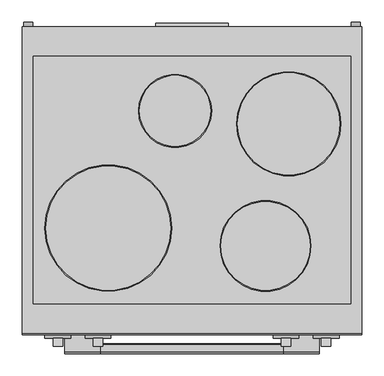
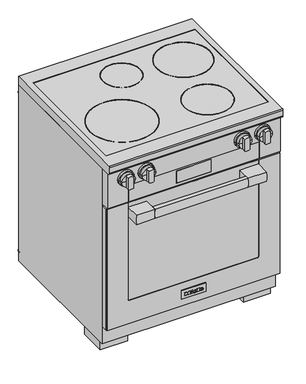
"""IFC4 building model written with IfcOpenShell, lengths in millimetres: proxy geometry, 11791520_USA_HR1622-3_EDST-CLST : 25162281_USA_11791520_HR1622-3_EDST-CLST."""

from ifc_helpers import new_model, si_unit, point, frame, frame_2d, origin, origin_with_axes, place, context, project, spatial, polyline, circle_curve, ellipse_curve, trimmed, segment, composite_curve, outline, extrude, faceted_brep, source, transform, mapped, element, save
from ifc_brep_helpers import plane_surface, cylinder_surface, revolved_surface, extruded_surface, advanced_brep


def specialty_equipment_b242dd7c(model_context):
    return source(origin(), model_context, "Body", "SolidModel", [
        extrude(outline(composite_curve([segment(polyline([(-714.0, 624.0), (-731.0, 624.0)]), True, "CONTINUOUS"), segment(trimmed(circle_curve(frame_2d((-655.4583333, 645.5)), 78.5416667), [point((-731.0, 624.0))], [point((-731.0, 667.0))], False, "CARTESIAN"), True, "CONTINUOUS"), segment(polyline([(-731.0, 667.0), (-714.0, 667.0)]), True, "CONTINUOUS"), segment(trimmed(circle_curve(frame_2d((-789.5416667, 645.5)), 78.5416667), [point((-714.0, 667.0))], [point((-714.0, 624.0))], False, "CARTESIAN"), True, "CONTINUOUS")], self_intersect=False)), frame((-205.0, 0.0, 0.0), z_axis=(1.0, 0.0, 0.0), x_axis=(0.0, 1.0, 0.0)), (0.0, 0.0, 1.0), 410.0),
        extrude(outline(composite_curve([segment(polyline([(-731.0, 667.0), (-668.7, 667.0), (-668.7, 624.0), (-731.0, 624.0)]), True, "CONTINUOUS"), segment(trimmed(circle_curve(frame_2d((-655.4583333, 645.5)), 78.5416667), [point((-731.0, 624.0))], [point((-731.0, 667.0))], False, "CARTESIAN"), True, "CONTINUOUS")], self_intersect=False)), frame((205.0, 0.0, 0.0), z_axis=(1.0, 0.0, 0.0), x_axis=(0.0, 1.0, 0.0)), (0.0, 0.0, 1.0), 81.0),
        extrude(outline(composite_curve([segment(polyline([(-668.7, 667.0), (-668.7, 624.0), (-731.0, 624.0)]), True, "CONTINUOUS"), segment(trimmed(circle_curve(frame_2d((-655.4583333, 645.5)), 78.5416667), [point((-731.0, 624.0))], [point((-731.0, 667.0))], False, "CARTESIAN"), True, "CONTINUOUS"), segment(polyline([(-731.0, 667.0), (-668.7, 667.0)]), True, "CONTINUOUS")], self_intersect=False)), frame((-286.0, 0.0, 0.0), z_axis=(1.0, 0.0, 0.0), x_axis=(0.0, 1.0, 0.0)), (0.0, 0.0, 1.0), 81.0),
        extrude(outline(polyline([(-380.0, -638.0), (380.0, -638.0), (380.0, -664.7), (-380.0, -664.7), (-380.0, -638.0)])), frame((0.0, 0.0, 127.0), z_axis=(0.0, 0.0, 1.0), x_axis=(1.0, 0.0, 0.0)), (0.0, 0.0, 1.0), 561.0),
        extrude(outline(polyline([(-379.0, -664.7), (379.0, -664.7), (379.0, -668.7), (-379.0, -668.7), (-379.0, -664.7)])), frame((0.0, 0.0, 128.0), z_axis=(0.0, 0.0, 1.0), x_axis=(1.0, 0.0, 0.0)), (0.0, 0.0, 1.0), 559.0),
        advanced_brep(
        [(287.0, -664.7, 688.0), (380.0, -664.7, 688.0), (380.0, -664.7, 127.0), (-380.0, -664.7, 127.0), (-380.0, -664.7, 688.0), (-287.0, -664.7, 688.0), (-287.0, -664.7, 687.0), (-379.0, -664.7, 687.0), (-379.0, -664.7, 128.0), (379.0, -664.7, 128.0), (379.0, -664.7, 687.0), (287.0, -664.7, 687.0), (-287.0, -670.0, 688.0), (-380.0, -670.0, 688.0), (-380.0, -670.0, 127.0), (380.0, -670.0, 127.0), (380.0, -670.0, 688.0), (287.0, -670.0, 688.0), (287.0, -670.0, 241.0), (281.0, -670.0, 235.0), (-281.0, -670.0, 235.0), (-287.0, -670.0, 241.0), (-287.0, -668.7, 241.0), (-287.0, -668.7, 687.0), (281.0, -668.7, 235.0), (-281.0, -668.7, 235.0), (287.0, -668.7, 687.0), (287.0, -668.7, 241.0), (379.0, -668.7, 687.0), (379.0, -668.7, 128.0), (-379.0, -668.7, 128.0), (-379.0, -668.7, 687.0)],
        [
            (0, 1),
            (1, 2),
            (2, 3),
            (3, 4),
            (4, 5),
            (5, 6),
            (6, 7),
            (7, 8),
            (8, 9),
            (9, 10),
            (10, 11),
            (11, 0),
            (12, 13),
            (13, 14),
            (14, 15),
            (15, 16),
            (16, 17),
            (17, 18),
            (18, 19, circle_curve(frame((281.0, -670.0, 241.0), z_axis=(0.0, 1.0, 0.0), x_axis=(-1.0, 0.0, 0.0)), 6.0)),
            (19, 20),
            (20, 21, circle_curve(frame((-281.0, -670.0, 241.0), z_axis=(0.0, 1.0, 0.0), x_axis=(-1.0, 0.0, 0.0)), 6.0)),
            (21, 12),
            (21, 22),
            (22, 23),
            (23, 6),
            (5, 12),
            (19, 24),
            (24, 25),
            (25, 20),
            (17, 0),
            (11, 26),
            (26, 27),
            (27, 18),
            (16, 1),
            (15, 2),
            (14, 3),
            (13, 4),
            (25, 22, circle_curve(frame((-281.0, -668.7, 241.0), z_axis=(0.0, 1.0, 0.0), x_axis=(-1.0, 0.0, 0.0)), 6.0)),
            (27, 24, circle_curve(frame((281.0, -668.7, 241.0), z_axis=(0.0, 1.0, 0.0), x_axis=(-1.0, 0.0, 0.0)), 6.0)),
            (28, 29),
            (29, 30),
            (30, 31),
            (31, 23),
            (26, 28),
            (28, 10),
            (9, 29),
            (8, 30),
            (7, 31),
        ],
        [
            plane_surface(frame((-287.0, -664.7, 241.0), z_axis=(0.0, 1.0, 0.0), x_axis=(0.0, 0.0, -1.0))),
            plane_surface(frame((-287.0, -670.0, 241.0), z_axis=(0.0, -1.0, 0.0), x_axis=(0.0, 0.0, 1.0))),
            plane_surface(frame((-287.0, -664.7, 688.0), z_axis=(1.0, 0.0, 0.0), x_axis=(0.0, -1.0, 0.0))),
            plane_surface(frame((-281.0, -664.7, 235.0), z_axis=(0.0, 0.0, 1.0), x_axis=(0.0, -1.0, 0.0))),
            plane_surface(frame((287.0, -664.7, 241.0), z_axis=(-1.0, 0.0, 0.0), x_axis=(0.0, -1.0, 0.0))),
            plane_surface(frame((287.0, -664.7, 688.0), z_axis=(0.0, 0.0, 1.0), x_axis=(0.0, -1.0, 0.0))),
            plane_surface(frame((380.0, -664.7, 688.0), z_axis=(1.0, 0.0, 0.0), x_axis=(0.0, -1.0, 0.0))),
            plane_surface(frame((380.0, -664.7, 127.0), z_axis=(0.0, 0.0, -1.0), x_axis=(0.0, -1.0, 0.0))),
            plane_surface(frame((-380.0, -664.7, 127.0), z_axis=(-1.0, 0.0, 0.0), x_axis=(0.0, -1.0, 0.0))),
            plane_surface(frame((-380.0, -664.7, 688.0), z_axis=(0.0, 0.0, 1.0), x_axis=(0.0, -1.0, 0.0))),
            revolved_surface(polyline([(-287.0, -670.0, 241.0), (-287.0, -668.7, 241.0)]), (-281.0, -670.0, 241.0), (0.0, -1.0, 0.0)),
            revolved_surface(polyline([(275.0, -670.0, 241.0), (275.0, -668.7, 241.0)]), (281.0, -670.0, 241.0), (0.0, -1.0, 0.0)),
            plane_surface(frame((379.0, -668.7, 687.0), z_axis=(0.0, 1.0, 0.0), x_axis=(0.0, 0.0, 1.0))),
            plane_surface(frame((379.0, -664.7, 687.0), z_axis=(-1.0, 0.0, 0.0), x_axis=(0.0, -1.0, 0.0))),
            plane_surface(frame((379.0, -664.7, 128.0), z_axis=(0.0, 0.0, 1.0), x_axis=(0.0, -1.0, 0.0))),
            plane_surface(frame((-379.0, -664.7, 128.0), z_axis=(1.0, 0.0, 0.0), x_axis=(0.0, -1.0, 0.0))),
            plane_surface(frame((-379.0, -664.7, 687.0), z_axis=(0.0, 0.0, -1.0), x_axis=(0.0, -1.0, 0.0))),
        ],
        [
            (0, [[1, 2, 3, 4, 5, 6, 7, 8, 9, 10, 11, 12]]),
            (1, [[13, 14, 15, 16, 17, 18, 19, 20, 21, 22]]),
            (2, [[-22, 23, 24, 25, -6, 26]]),
            (3, [[-20, 27, 28, 29]]),
            (4, [[-18, 30, -12, 31, 32, 33]]),
            (5, [[-1, -30, -17, 34]]),
            (6, [[-2, -34, -16, 35]]),
            (7, [[-3, -35, -15, 36]]),
            (8, [[-4, -36, -14, 37]]),
            (9, [[-5, -37, -13, -26]]),
            (10, [[-21, -29, 38, -23]]),
            (11, [[-19, -33, 39, -27]]),
            (12, [[40, 41, 42, 43, -24, -38, -28, -39, -32, 44]]),
            (13, [[-40, 45, -10, 46]]),
            (14, [[-41, -46, -9, 47]]),
            (15, [[-42, -47, -8, 48]]),
            (16, [[-45, -44, -31, -11]]),
            (16, [[-48, -7, -25, -43]]),
        ],
    ),
        extrude(outline(polyline([(-351.0, -617.0), (351.0, -617.0), (351.0, -638.0), (-351.0, -638.0), (-351.0, -617.0)])), frame((0.0, 0.0, 133.0), z_axis=(0.0, 0.0, 1.0), x_axis=(1.0, 0.0, 0.0)), (0.0, 0.0, 1.0), 550.0),
        extrude(outline(polyline([(356.0, -66.0), (356.0, -622.0), (-356.0, -622.0), (-356.0, -66.0), (356.0, -66.0)])), frame((0.0, 0.0, 896.4), z_axis=(0.0, 0.0, 1.0), x_axis=(1.0, 0.0, 0.0)), (0.0, 0.0, 1.0), 4.0),
        advanced_brep(
        [(381.0, 0.0, 902.0), (381.0, -688.0, 902.0), (381.0, -692.0, 898.0), (381.0, -692.0, 872.0), (381.0, -682.0, 862.0), (381.0, 0.0, 862.0), (-381.0, 0.0, 902.0), (-381.0, 0.0, 862.0), (-381.0, -682.0, 862.0), (-381.0, -692.0, 872.0), (-381.0, -692.0, 898.0), (-381.0, -688.0, 902.0), (-356.0, -66.0, 902.0), (356.0, -66.0, 902.0), (356.0, -622.0, 902.0), (-356.0, -622.0, 902.0), (356.0, -66.0, 896.4), (-356.0, -66.0, 896.4), (-356.0, -622.0, 896.4), (356.0, -622.0, 896.4)],
        [
            (0, 1),
            (1, 2, circle_curve(frame((381.0, -688.0, 898.0), z_axis=(1.0, 0.0, 0.0), x_axis=(0.0, 0.0, 1.0)), 4.0)),
            (2, 3),
            (3, 4, circle_curve(frame((381.0, -682.0, 872.0), z_axis=(1.0, 0.0, 0.0), x_axis=(0.0, 0.0, 1.0)), 10.0)),
            (4, 5),
            (5, 0),
            (6, 7),
            (7, 8),
            (8, 9, circle_curve(frame((-381.0, -682.0, 872.0), z_axis=(-1.0, 0.0, 0.0), x_axis=(0.0, 0.0, 1.0)), 10.0)),
            (9, 10),
            (10, 11, circle_curve(frame((-381.0, -688.0, 898.0), z_axis=(-1.0, 0.0, 0.0), x_axis=(0.0, 0.0, 1.0)), 4.0)),
            (11, 6),
            (0, 6),
            (11, 1),
            (12, 13),
            (13, 14),
            (14, 15),
            (15, 12),
            (10, 2),
            (9, 3),
            (8, 4),
            (7, 5),
            (16, 17),
            (17, 18),
            (18, 19),
            (19, 16),
            (16, 13),
            (12, 17),
            (15, 18),
            (14, 19),
        ],
        [
            plane_surface(frame((381.0, -688.0, 902.0), z_axis=(1.0, 0.0, 0.0), x_axis=(0.0, -1.0, 0.0))),
            plane_surface(frame((-381.0, -688.0, 902.0), z_axis=(-1.0, 0.0, 0.0), x_axis=(0.0, 1.0, 0.0))),
            plane_surface(frame((381.0, 0.0, 902.0), z_axis=(0.0, 0.0, 1.0), x_axis=(-1.0, 0.0, 0.0))),
            cylinder_surface(frame((-381.0, -688.0, 898.0), z_axis=(1.0, 0.0, 0.0), x_axis=(0.0, 0.0, 1.0)), 4.0),
            plane_surface(frame((381.0, -692.0, 898.0), z_axis=(0.0, -1.0, 0.0), x_axis=(-1.0, 0.0, 0.0))),
            cylinder_surface(frame((-381.0, -682.0, 872.0), z_axis=(1.0, 0.0, 0.0), x_axis=(0.0, 0.0, 1.0)), 10.0),
            plane_surface(frame((381.0, -682.0, 862.0), z_axis=(0.0, 0.0, -1.0), x_axis=(-1.0, 0.0, 0.0))),
            plane_surface(frame((381.0, 0.0, 862.0), z_axis=(0.0, 1.0, 0.0), x_axis=(-1.0, 0.0, 0.0))),
            plane_surface(frame((-356.0, -66.0, 896.4), z_axis=(0.0, 0.0, 1.0), x_axis=(1.0, 0.0, 0.0))),
            plane_surface(frame((356.0, -66.0, 902.0), z_axis=(0.0, -1.0, 0.0), x_axis=(0.0, 0.0, -1.0))),
            plane_surface(frame((-356.0, -66.0, 902.0), z_axis=(1.0, 0.0, 0.0), x_axis=(0.0, 0.0, -1.0))),
            plane_surface(frame((-356.0, -622.0, 902.0), z_axis=(0.0, 1.0, 0.0), x_axis=(0.0, 0.0, -1.0))),
            plane_surface(frame((356.0, -622.0, 902.0), z_axis=(-1.0, 0.0, 0.0), x_axis=(0.0, 0.0, -1.0))),
        ],
        [
            (0, [[1, 2, 3, 4, 5, 6]]),
            (1, [[7, 8, 9, 10, 11, 12]]),
            (2, [[-1, 13, -12, 14], [15, 16, 17, 18]]),
            (3, [[-2, -14, -11, 19]]),
            (4, [[-3, -19, -10, 20]]),
            (5, [[-4, -20, -9, 21]]),
            (6, [[-5, -21, -8, 22]]),
            (7, [[-6, -22, -7, -13]]),
            (8, [[23, 24, 25, 26]]),
            (9, [[-23, 27, -15, 28]]),
            (10, [[-24, -28, -18, 29]]),
            (11, [[-25, -29, -17, 30]]),
            (12, [[-26, -30, -16, -27]]),
        ],
    ),
        extrude(outline(composite_curve([segment(trimmed(circle_curve(frame_2d((-38.0, -189.0)), 82.0), [point((44.0, -189.0))], [point((-120.0, -189.0))], False, "CARTESIAN"), True, "CONTINUOUS"), segment(trimmed(circle_curve(frame_2d((-38.0, -189.0)), 82.0), [point((-120.0, -189.0))], [point((44.0, -189.0))], False, "CARTESIAN"), True, "CONTINUOUS")], self_intersect=False), holes=[composite_curve([segment(trimmed(circle_curve(frame_2d((-38.0, -189.0)), 80.0), [point((42.0, -189.0))], [point((-118.0, -189.0))], True, "CARTESIAN"), True, "CONTINUOUS"), segment(trimmed(circle_curve(frame_2d((-38.0, -189.0)), 80.0), [point((-118.0, -189.0))], [point((42.0, -189.0))], True, "CARTESIAN"), True, "CONTINUOUS")], self_intersect=False)]), frame((0.0, 0.0, 900.4), z_axis=(0.0, 0.0, 1.0), x_axis=(1.0, 0.0, 0.0)), (0.0, 0.0, 1.0), 1.0),
        extrude(outline(composite_curve([segment(trimmed(circle_curve(frame_2d((217.0, -218.0)), 117.0), [point((334.0, -218.0))], [point((100.0, -218.0))], False, "CARTESIAN"), True, "CONTINUOUS"), segment(trimmed(circle_curve(frame_2d((217.0, -218.0)), 117.0), [point((100.0, -218.0))], [point((334.0, -218.0))], False, "CARTESIAN"), True, "CONTINUOUS")], self_intersect=False), holes=[composite_curve([segment(trimmed(circle_curve(frame_2d((217.0, -218.0)), 115.0), [point((332.0, -218.0))], [point((102.0, -218.0))], True, "CARTESIAN"), True, "CONTINUOUS"), segment(trimmed(circle_curve(frame_2d((217.0, -218.0)), 115.0), [point((102.0, -218.0))], [point((332.0, -218.0))], True, "CARTESIAN"), True, "CONTINUOUS")], self_intersect=False)]), frame((0.0, 0.0, 900.4), z_axis=(0.0, 0.0, 1.0), x_axis=(1.0, 0.0, 0.0)), (0.0, 0.0, 1.0), 1.0),
        extrude(outline(composite_curve([segment(trimmed(circle_curve(frame_2d((165.0, -492.0)), 102.0), [point((267.0, -492.0))], [point((63.0, -492.0))], False, "CARTESIAN"), True, "CONTINUOUS"), segment(trimmed(circle_curve(frame_2d((165.0, -492.0)), 102.0), [point((63.0, -492.0))], [point((267.0, -492.0))], False, "CARTESIAN"), True, "CONTINUOUS")], self_intersect=False), holes=[composite_curve([segment(trimmed(circle_curve(frame_2d((165.0, -492.0)), 100.0), [point((265.0, -492.0))], [point((65.0, -492.0))], True, "CARTESIAN"), True, "CONTINUOUS"), segment(trimmed(circle_curve(frame_2d((165.0, -492.0)), 100.0), [point((65.0, -492.0))], [point((265.0, -492.0))], True, "CARTESIAN"), True, "CONTINUOUS")], self_intersect=False)]), frame((0.0, 0.0, 900.4), z_axis=(0.0, 0.0, 1.0), x_axis=(1.0, 0.0, 0.0)), (0.0, 0.0, 1.0), 1.0),
        extrude(outline(composite_curve([segment(trimmed(circle_curve(frame_2d((-188.0, -452.0)), 142.0), [point((-46.0, -452.0))], [point((-330.0, -452.0))], False, "CARTESIAN"), True, "CONTINUOUS"), segment(trimmed(circle_curve(frame_2d((-188.0, -452.0)), 142.0), [point((-330.0, -452.0))], [point((-46.0, -452.0))], False, "CARTESIAN"), True, "CONTINUOUS")], self_intersect=False), holes=[composite_curve([segment(trimmed(circle_curve(frame_2d((-188.0, -452.0)), 140.0), [point((-48.0, -452.0))], [point((-328.0, -452.0))], True, "CARTESIAN"), True, "CONTINUOUS"), segment(trimmed(circle_curve(frame_2d((-188.0, -452.0)), 140.0), [point((-328.0, -452.0))], [point((-48.0, -452.0))], True, "CARTESIAN"), True, "CONTINUOUS")], self_intersect=False)]), frame((0.0, 0.0, 900.4), z_axis=(0.0, 0.0, 1.0), x_axis=(1.0, 0.0, 0.0)), (0.0, 0.0, 1.0), 1.0),
        extrude(outline(composite_curve([segment(polyline([(839.8328157, -312.0), (786.1671843, -312.0)]), True, "CONTINUOUS"), segment(trimmed(circle_curve(frame_2d((813.0, -301.0)), 29.0), [point((786.1671843, -312.0))], [point((786.1671843, -290.0))], False, "CARTESIAN"), True, "CONTINUOUS"), segment(polyline([(786.1671843, -290.0), (839.8328157, -290.0)]), True, "CONTINUOUS"), segment(trimmed(circle_curve(frame_2d((813.0, -301.0)), 29.0), [point((839.8328157, -290.0))], [point((839.8328157, -312.0))], False, "CARTESIAN"), True, "CONTINUOUS")], self_intersect=False)), frame((0.0, -717.0, 0.0), z_axis=(0.0, 1.0, 0.0), x_axis=(0.0, 0.0, 1.0)), (0.0, 0.0, 1.0), 18.0),
        extrude(outline(composite_curve([segment(polyline([(839.8328157, -222.0), (786.1671843, -222.0)]), True, "CONTINUOUS"), segment(trimmed(circle_curve(frame_2d((813.0, -211.0)), 29.0), [point((786.1671843, -222.0))], [point((786.1671843, -200.0))], False, "CARTESIAN"), True, "CONTINUOUS"), segment(polyline([(786.1671843, -200.0), (839.8328157, -200.0)]), True, "CONTINUOUS"), segment(trimmed(circle_curve(frame_2d((813.0, -211.0)), 29.0), [point((839.8328157, -200.0))], [point((839.8328157, -222.0))], False, "CARTESIAN"), True, "CONTINUOUS")], self_intersect=False)), frame((0.0, -717.0, 0.0), z_axis=(0.0, 1.0, 0.0), x_axis=(0.0, 0.0, 1.0)), (0.0, 0.0, 1.0), 18.0),
        extrude(outline(composite_curve([segment(trimmed(circle_curve(frame_2d((813.0, 211.0)), 29.0), [point((786.1671843, 200.0))], [point((786.1671843, 222.0))], False, "CARTESIAN"), True, "CONTINUOUS"), segment(polyline([(786.1671843, 222.0), (839.8328157, 222.0)]), True, "CONTINUOUS"), segment(trimmed(circle_curve(frame_2d((813.0, 211.0)), 29.0), [point((839.8328157, 222.0))], [point((839.8328157, 200.0))], False, "CARTESIAN"), True, "CONTINUOUS"), segment(polyline([(839.8328157, 200.0), (786.1671843, 200.0)]), True, "CONTINUOUS")], self_intersect=False)), frame((0.0, -717.0, 0.0), z_axis=(0.0, 1.0, 0.0), x_axis=(0.0, 0.0, 1.0)), (0.0, 0.0, 1.0), 18.0),
        advanced_brep(
        [(-301.0, -683.0, 813.0), (-272.0, -683.0, 813.0), (-330.0, -683.0, 813.0), (-330.0, -699.0, 813.0), (-272.0, -699.0, 813.0), (-301.0, -699.0, 813.0)],
        [
            (0, 1),
            (1, 2, circle_curve(frame((-301.0, -683.0, 813.0), z_axis=(0.0, 1.0, 0.0), x_axis=(1.0, 0.0, 0.0)), 29.0)),
            (2, 0),
            (2, 1, circle_curve(frame((-301.0, -683.0, 813.0), z_axis=(0.0, 1.0, 0.0), x_axis=(1.0, 0.0, 0.0)), 29.0)),
            (3, 4, circle_curve(frame((-301.0, -699.0, 813.0), z_axis=(0.0, -1.0, 0.0), x_axis=(1.0, 0.0, 0.0)), 29.0)),
            (4, 5),
            (5, 3),
            (4, 3, circle_curve(frame((-301.0, -699.0, 813.0), z_axis=(0.0, -1.0, 0.0), x_axis=(1.0, 0.0, 0.0)), 29.0)),
            (1, 4),
            (3, 2),
        ],
        [
            plane_surface(frame((-301.0, -683.0, 813.0), z_axis=(0.0, 1.0, 0.0), x_axis=(1.0, 0.0, 0.0))),
            plane_surface(frame((-301.0, -699.0, 813.0), z_axis=(0.0, -1.0, 0.0), x_axis=(1.0, 0.0, 0.0))),
            cylinder_surface(frame((-301.0, 751.3738435, 813.0), z_axis=(0.0, 1.0, 0.0), x_axis=(1.0, 0.0, 0.0)), 29.0),
        ],
        [
            (0, [[1, 2, 3]]),
            (0, [[-3, 4, -1]]),
            (1, [[5, 6, 7]]),
            (1, [[8, -7, -6]]),
            (2, [[-2, 9, -5, 10]]),
            (2, [[-4, -10, -8, -9]]),
        ],
    ),
        advanced_brep(
        [(-211.0, -683.0, 813.0), (-182.0, -683.0, 813.0), (-240.0, -683.0, 813.0), (-240.0, -699.0, 813.0), (-182.0, -699.0, 813.0), (-211.0, -699.0, 813.0)],
        [
            (0, 1),
            (1, 2, circle_curve(frame((-211.0, -683.0, 813.0), z_axis=(0.0, 1.0, 0.0), x_axis=(1.0, 0.0, 0.0)), 29.0)),
            (2, 0),
            (2, 1, circle_curve(frame((-211.0, -683.0, 813.0), z_axis=(0.0, 1.0, 0.0), x_axis=(1.0, 0.0, 0.0)), 29.0)),
            (3, 4, circle_curve(frame((-211.0, -699.0, 813.0), z_axis=(0.0, -1.0, 0.0), x_axis=(1.0, 0.0, 0.0)), 29.0)),
            (4, 5),
            (5, 3),
            (4, 3, circle_curve(frame((-211.0, -699.0, 813.0), z_axis=(0.0, -1.0, 0.0), x_axis=(1.0, 0.0, 0.0)), 29.0)),
            (1, 4),
            (3, 2),
        ],
        [
            plane_surface(frame((-211.0, -683.0, 813.0), z_axis=(0.0, 1.0, 0.0), x_axis=(1.0, 0.0, 0.0))),
            plane_surface(frame((-211.0, -699.0, 813.0), z_axis=(0.0, -1.0, 0.0), x_axis=(1.0, 0.0, 0.0))),
            cylinder_surface(frame((-211.0, 751.3738435, 813.0), z_axis=(0.0, 1.0, 0.0), x_axis=(1.0, 0.0, 0.0)), 29.0),
        ],
        [
            (0, [[1, 2, 3]]),
            (0, [[-3, 4, -1]]),
            (1, [[5, 6, 7]]),
            (1, [[8, -7, -6]]),
            (2, [[-2, 9, -5, 10]]),
            (2, [[-4, -10, -8, -9]]),
        ],
    ),
        advanced_brep(
        [(211.0, -683.0, 813.0), (240.0, -683.0, 813.0), (182.0, -683.0, 813.0), (182.0, -699.0, 813.0), (240.0, -699.0, 813.0), (211.0, -699.0, 813.0)],
        [
            (0, 1),
            (1, 2, circle_curve(frame((211.0, -683.0, 813.0), z_axis=(0.0, 1.0, 0.0), x_axis=(1.0, 0.0, 0.0)), 29.0)),
            (2, 0),
            (2, 1, circle_curve(frame((211.0, -683.0, 813.0), z_axis=(0.0, 1.0, 0.0), x_axis=(1.0, 0.0, 0.0)), 29.0)),
            (3, 4, circle_curve(frame((211.0, -699.0, 813.0), z_axis=(0.0, -1.0, 0.0), x_axis=(1.0, 0.0, 0.0)), 29.0)),
            (4, 5),
            (5, 3),
            (4, 3, circle_curve(frame((211.0, -699.0, 813.0), z_axis=(0.0, -1.0, 0.0), x_axis=(1.0, 0.0, 0.0)), 29.0)),
            (1, 4),
            (3, 2),
        ],
        [
            plane_surface(frame((211.0, -683.0, 813.0), z_axis=(0.0, 1.0, 0.0), x_axis=(1.0, 0.0, 0.0))),
            plane_surface(frame((211.0, -699.0, 813.0), z_axis=(0.0, -1.0, 0.0), x_axis=(1.0, 0.0, 0.0))),
            cylinder_surface(frame((211.0, 751.3738435, 813.0), z_axis=(0.0, 1.0, 0.0), x_axis=(1.0, 0.0, 0.0)), 29.0),
        ],
        [
            (0, [[1, 2, 3]]),
            (0, [[-3, 4, -1]]),
            (1, [[5, 6, 7]]),
            (1, [[8, -7, -6]]),
            (2, [[-2, 9, -5, 10]]),
            (2, [[-4, -10, -8, -9]]),
        ],
    ),
        extrude(outline(composite_curve([segment(polyline([(786.1671843, 312.0), (839.8328157, 312.0)]), True, "CONTINUOUS"), segment(trimmed(circle_curve(frame_2d((813.0, 301.0)), 29.0), [point((839.8328157, 312.0))], [point((839.8328157, 290.0))], False, "CARTESIAN"), True, "CONTINUOUS"), segment(polyline([(839.8328157, 290.0), (786.1671843, 290.0)]), True, "CONTINUOUS"), segment(trimmed(circle_curve(frame_2d((813.0, 301.0)), 29.0), [point((786.1671843, 290.0))], [point((786.1671843, 312.0))], False, "CARTESIAN"), True, "CONTINUOUS")], self_intersect=False)), frame((0.0, -717.0, 0.0), z_axis=(0.0, 1.0, 0.0), x_axis=(0.0, 0.0, 1.0)), (0.0, 0.0, 1.0), 18.0),
        advanced_brep(
        [(301.0, -683.0, 813.0), (330.0, -683.0, 813.0), (272.0, -683.0, 813.0), (272.0, -699.0, 813.0), (330.0, -699.0, 813.0), (301.0, -699.0, 813.0)],
        [
            (0, 1),
            (1, 2, circle_curve(frame((301.0, -683.0, 813.0), z_axis=(0.0, 1.0, 0.0), x_axis=(1.0, 0.0, 0.0)), 29.0)),
            (2, 0),
            (2, 1, circle_curve(frame((301.0, -683.0, 813.0), z_axis=(0.0, 1.0, 0.0), x_axis=(1.0, 0.0, 0.0)), 29.0)),
            (3, 4, circle_curve(frame((301.0, -699.0, 813.0), z_axis=(0.0, -1.0, 0.0), x_axis=(1.0, 0.0, 0.0)), 29.0)),
            (4, 5),
            (5, 3),
            (4, 3, circle_curve(frame((301.0, -699.0, 813.0), z_axis=(0.0, -1.0, 0.0), x_axis=(1.0, 0.0, 0.0)), 29.0)),
            (1, 4),
            (3, 2),
        ],
        [
            plane_surface(frame((301.0, -683.0, 813.0), z_axis=(0.0, 1.0, 0.0), x_axis=(1.0, 0.0, 0.0))),
            plane_surface(frame((301.0, -699.0, 813.0), z_axis=(0.0, -1.0, 0.0), x_axis=(1.0, 0.0, 0.0))),
            cylinder_surface(frame((301.0, 751.3738435, 813.0), z_axis=(0.0, 1.0, 0.0), x_axis=(1.0, 0.0, 0.0)), 29.0),
        ],
        [
            (0, [[1, 2, 3]]),
            (0, [[-3, 4, -1]]),
            (1, [[5, 6, 7]]),
            (1, [[8, -7, -6]]),
            (2, [[-2, 9, -5, 10]]),
            (2, [[-4, -10, -8, -9]]),
        ],
    ),
        extrude(outline(polyline([(76.5, -671.7), (-76.5, -671.7), (-76.5, -670.7), (76.5, -670.7), (76.5, -671.7)])), frame((0.0, 0.0, 707.0), z_axis=(0.0, 0.0, 1.0), x_axis=(1.0, 0.0, 0.0)), (0.0, 0.0, 1.0), 56.0),
        extrude(outline(polyline([(772.0, 287.0), (772.0, -287.0), (695.0, -287.0), (695.0, 287.0), (772.0, 287.0)]), holes=[polyline([(763.0, 76.5), (707.0, 76.5), (707.0, -76.5), (763.0, -76.5), (763.0, 76.5)])]), frame((0.0, -671.7, 0.0), z_axis=(0.0, 1.0, 0.0), x_axis=(0.0, 0.0, 1.0)), (0.0, 0.0, 1.0), 5.0),
        faceted_brep([(380.0, -673.0, 862.0), (-380.0, -673.0, 862.0), (-380.0, -673.0, 695.0), (-287.0, -673.0, 695.0), (-287.0, -673.0, 772.0), (287.0, -673.0, 772.0), (287.0, -673.0, 695.0), (380.0, -673.0, 695.0), (380.0, -633.0, 862.0), (380.0, -633.0, 695.0), (-380.0, -633.0, 695.0), (-380.0, -633.0, 862.0), (287.0, -666.7, 695.0), (-287.0, -666.7, 695.0), (287.0, -666.7, 772.0), (-287.0, -666.7, 772.0)], [[[0, 1, 2, 3, 4, 5, 6, 7]], [[8, 9, 10, 11]], [[0, 7, 9, 8]], [[10, 9, 7, 6, 12, 13, 3, 2]], [[2, 1, 11, 10]], [[1, 0, 8, 11]], [[14, 15, 13, 12]], [[14, 12, 6, 5]], [[13, 15, 4, 3]], [[15, 14, 5, 4]]]),
        advanced_brep(
        [(-334.2367302, -683.0, 813.0), (-267.7632698, -683.0, 813.0), (-301.0, -683.0, 813.0), (-336.0, -673.0, 813.0), (-266.0, -673.0, 813.0), (-301.0, -673.0, 813.0)],
        [
            (0, 1, circle_curve(frame((-301.0, -683.0, 813.0), z_axis=(0.0, -1.0, 0.0), x_axis=(1.0, 0.0, 0.0)), 33.2367302)),
            (1, 2),
            (2, 0),
            (1, 0, circle_curve(frame((-301.0, -683.0, 813.0), z_axis=(0.0, -1.0, 0.0), x_axis=(1.0, 0.0, 0.0)), 33.2367302)),
            (3, 4, circle_curve(frame((-301.0, -673.0, 813.0), z_axis=(0.0, -1.0, 0.0), x_axis=(1.0, 0.0, 0.0)), 35.0)),
            (4, 1),
            (0, 3),
            (4, 3, circle_curve(frame((-301.0, -673.0, 813.0), z_axis=(0.0, -1.0, 0.0), x_axis=(1.0, 0.0, 0.0)), 35.0)),
            (5, 4),
            (3, 5),
        ],
        [
            plane_surface(frame((-301.0, -683.0, 813.0), z_axis=(0.0, -1.0, 0.0), x_axis=(1.0, 0.0, 0.0))),
            revolved_surface(polyline([(-267.7632698, -683.0, 813.0), (-266.0, -673.0, 813.0)]), (-301.0, 751.3738435, 813.0), (0.0, 1.0, 0.0)),
            plane_surface(frame((-301.0, -673.0, 813.0), z_axis=(0.0, 1.0, 0.0), x_axis=(1.0, 0.0, 0.0))),
        ],
        [
            (0, [[1, 2, 3]]),
            (0, [[4, -3, -2]]),
            (1, [[5, 6, -1, 7]]),
            (1, [[8, -7, -4, -6]]),
            (2, [[9, -5, 10]]),
            (2, [[-10, -8, -9]]),
        ],
    ),
        advanced_brep(
        [(-244.2367302, -683.0, 813.0), (-177.7632698, -683.0, 813.0), (-211.0, -683.0, 813.0), (-246.0, -673.0, 813.0), (-176.0, -673.0, 813.0), (-211.0, -673.0, 813.0)],
        [
            (0, 1, circle_curve(frame((-211.0, -683.0, 813.0), z_axis=(0.0, -1.0, 0.0), x_axis=(1.0, 0.0, 0.0)), 33.2367302)),
            (1, 2),
            (2, 0),
            (1, 0, circle_curve(frame((-211.0, -683.0, 813.0), z_axis=(0.0, -1.0, 0.0), x_axis=(1.0, 0.0, 0.0)), 33.2367302)),
            (3, 4, circle_curve(frame((-211.0, -673.0, 813.0), z_axis=(0.0, -1.0, 0.0), x_axis=(1.0, 0.0, 0.0)), 35.0)),
            (4, 1),
            (0, 3),
            (4, 3, circle_curve(frame((-211.0, -673.0, 813.0), z_axis=(0.0, -1.0, 0.0), x_axis=(1.0, 0.0, 0.0)), 35.0)),
            (5, 4),
            (3, 5),
        ],
        [
            plane_surface(frame((-211.0, -683.0, 813.0), z_axis=(0.0, -1.0, 0.0), x_axis=(1.0, 0.0, 0.0))),
            revolved_surface(polyline([(-177.7632698, -683.0, 813.0), (-176.0, -673.0, 813.0)]), (-211.0, 751.3738435, 813.0), (0.0, 1.0, 0.0)),
            plane_surface(frame((-211.0, -673.0, 813.0), z_axis=(0.0, 1.0, 0.0), x_axis=(1.0, 0.0, 0.0))),
        ],
        [
            (0, [[1, 2, 3]]),
            (0, [[4, -3, -2]]),
            (1, [[5, 6, -1, 7]]),
            (1, [[8, -7, -4, -6]]),
            (2, [[9, -5, 10]]),
            (2, [[-10, -8, -9]]),
        ],
    ),
        advanced_brep(
        [(177.7632698, -683.0, 813.0), (244.2367302, -683.0, 813.0), (211.0, -683.0, 813.0), (176.0, -673.0, 813.0), (246.0, -673.0, 813.0), (211.0, -673.0, 813.0)],
        [
            (0, 1, circle_curve(frame((211.0, -683.0, 813.0), z_axis=(0.0, -1.0, 0.0), x_axis=(1.0, 0.0, 0.0)), 33.2367302)),
            (1, 2),
            (2, 0),
            (1, 0, circle_curve(frame((211.0, -683.0, 813.0), z_axis=(0.0, -1.0, 0.0), x_axis=(1.0, 0.0, 0.0)), 33.2367302)),
            (3, 4, circle_curve(frame((211.0, -673.0, 813.0), z_axis=(0.0, -1.0, 0.0), x_axis=(1.0, 0.0, 0.0)), 35.0)),
            (4, 1),
            (0, 3),
            (4, 3, circle_curve(frame((211.0, -673.0, 813.0), z_axis=(0.0, -1.0, 0.0), x_axis=(1.0, 0.0, 0.0)), 35.0)),
            (5, 4),
            (3, 5),
        ],
        [
            plane_surface(frame((211.0, -683.0, 813.0), z_axis=(0.0, -1.0, 0.0), x_axis=(1.0, 0.0, 0.0))),
            revolved_surface(polyline([(244.2367302, -683.0, 813.0), (246.0, -673.0, 813.0)]), (211.0, 751.3738435, 813.0), (0.0, 1.0, 0.0)),
            plane_surface(frame((211.0, -673.0, 813.0), z_axis=(0.0, 1.0, 0.0), x_axis=(1.0, 0.0, 0.0))),
        ],
        [
            (0, [[1, 2, 3]]),
            (0, [[4, -3, -2]]),
            (1, [[5, 6, -1, 7]]),
            (1, [[8, -7, -4, -6]]),
            (2, [[9, -5, 10]]),
            (2, [[-10, -8, -9]]),
        ],
    ),
        advanced_brep(
        [(267.7632698, -683.0, 813.0), (334.2367302, -683.0, 813.0), (301.0, -683.0, 813.0), (266.0, -673.0, 813.0), (336.0, -673.0, 813.0), (301.0, -673.0, 813.0)],
        [
            (0, 1, circle_curve(frame((301.0, -683.0, 813.0), z_axis=(0.0, -1.0, 0.0), x_axis=(1.0, 0.0, 0.0)), 33.2367302)),
            (1, 2),
            (2, 0),
            (1, 0, circle_curve(frame((301.0, -683.0, 813.0), z_axis=(0.0, -1.0, 0.0), x_axis=(1.0, 0.0, 0.0)), 33.2367302)),
            (3, 4, circle_curve(frame((301.0, -673.0, 813.0), z_axis=(0.0, -1.0, 0.0), x_axis=(1.0, 0.0, 0.0)), 35.0)),
            (4, 1),
            (0, 3),
            (4, 3, circle_curve(frame((301.0, -673.0, 813.0), z_axis=(0.0, -1.0, 0.0), x_axis=(1.0, 0.0, 0.0)), 35.0)),
            (5, 4),
            (3, 5),
        ],
        [
            plane_surface(frame((301.0, -683.0, 813.0), z_axis=(0.0, -1.0, 0.0), x_axis=(1.0, 0.0, 0.0))),
            revolved_surface(polyline([(334.2367302, -683.0, 813.0), (336.0, -673.0, 813.0)]), (301.0, 751.3738435, 813.0), (0.0, 1.0, 0.0)),
            plane_surface(frame((301.0, -673.0, 813.0), z_axis=(0.0, 1.0, 0.0), x_axis=(1.0, 0.0, 0.0))),
        ],
        [
            (0, [[1, 2, 3]]),
            (0, [[4, -3, -2]]),
            (1, [[5, 6, -1, 7]]),
            (1, [[8, -7, -4, -6]]),
            (2, [[9, -5, 10]]),
            (2, [[-10, -8, -9]]),
        ],
    ),
        extrude(outline(composite_curve([segment(trimmed(circle_curve(frame_2d((822.0, 368.0)), 10.0), [point((822.0, 378.0))], [point((822.0, 358.0))], False, "CARTESIAN"), True, "CONTINUOUS"), segment(trimmed(circle_curve(frame_2d((822.0, 368.0)), 10.0), [point((822.0, 358.0))], [point((822.0, 378.0))], False, "CARTESIAN"), True, "CONTINUOUS")], self_intersect=False)), frame((0.0, 0.0, 0.0), z_axis=(0.0, 1.0, 0.0), x_axis=(0.0, 0.0, 1.0)), (0.0, 0.0, 1.0), 10.0),
        extrude(outline(composite_curve([segment(trimmed(circle_curve(frame_2d((87.0, 368.0)), 10.0), [point((87.0, 378.0))], [point((87.0, 358.0))], False, "CARTESIAN"), True, "CONTINUOUS"), segment(trimmed(circle_curve(frame_2d((87.0, 368.0)), 10.0), [point((87.0, 358.0))], [point((87.0, 378.0))], False, "CARTESIAN"), True, "CONTINUOUS")], self_intersect=False)), frame((0.0, 0.0, 0.0), z_axis=(0.0, 1.0, 0.0), x_axis=(0.0, 0.0, 1.0)), (0.0, 0.0, 1.0), 10.0),
        extrude(outline(composite_curve([segment(trimmed(circle_curve(frame_2d((822.0, -368.0)), 10.0), [point((822.0, -358.0))], [point((822.0, -378.0))], False, "CARTESIAN"), True, "CONTINUOUS"), segment(trimmed(circle_curve(frame_2d((822.0, -368.0)), 10.0), [point((822.0, -378.0))], [point((822.0, -358.0))], False, "CARTESIAN"), True, "CONTINUOUS")], self_intersect=False)), frame((0.0, 0.0, 0.0), z_axis=(0.0, 1.0, 0.0), x_axis=(0.0, 0.0, 1.0)), (0.0, 0.0, 1.0), 10.0),
        extrude(outline(composite_curve([segment(trimmed(circle_curve(frame_2d((87.0, -368.0)), 10.0), [point((87.0, -358.0))], [point((87.0, -378.0))], False, "CARTESIAN"), True, "CONTINUOUS"), segment(trimmed(circle_curve(frame_2d((87.0, -368.0)), 10.0), [point((87.0, -378.0))], [point((87.0, -358.0))], False, "CARTESIAN"), True, "CONTINUOUS")], self_intersect=False)), frame((0.0, 0.0, 0.0), z_axis=(0.0, 1.0, 0.0), x_axis=(0.0, 0.0, 1.0)), (0.0, 0.0, 1.0), 10.0),
        extrude(outline(polyline([(-81.5, 8.0), (81.5, 8.0), (81.5, 0.0), (-81.5, 0.0), (-81.5, 8.0)])), frame((0.0, 0.0, 559.0), z_axis=(0.0, 0.0, 1.0), x_axis=(1.0, 0.0, 0.0)), (0.0, 0.0, 1.0), 237.0),
        extrude(outline(composite_curve([segment(trimmed(circle_curve(frame_2d((-152.0, 39.6862697)), 39.6862697), [point((-112.6710759, 45.0))], [point((-191.3289241, 45.0))], False, "CARTESIAN"), True, "CONTINUOUS"), segment(polyline([(-191.3289241, 45.0), (-112.6710759, 45.0)]), True, "CONTINUOUS")], self_intersect=False)), frame((206.0, 0.0, 0.0), z_axis=(1.0, 0.0, 0.0), x_axis=(0.0, 1.0, 0.0)), (0.0, 0.0, 1.0), 28.0),
        faceted_brep([(356.0, -608.0, 695.0), (-356.0, -608.0, 695.0), (-356.0, -608.0, 128.0), (356.0, -608.0, 128.0), (312.0, -608.0, 608.0), (312.0, -608.0, 185.0), (-312.0, -608.0, 185.0), (-312.0, -608.0, 608.0), (356.0, -633.0, 128.0), (356.0, -633.0, 695.0), (-356.0, -633.0, 128.0), (-356.0, -633.0, 695.0), (-381.0, 0.0, 862.0), (-381.0, -633.0, 862.0), (381.0, -633.0, 862.0), (381.0, 0.0, 862.0), (356.0, 0.0, 862.0), (356.0, -23.0, 862.0), (266.0, -23.0, 862.0), (266.0, 0.0, 862.0), (65.0, 0.0, 862.0), (65.0, -23.0, 862.0), (-66.0, -23.0, 862.0), (-66.0, 0.0, 862.0), (381.0, 0.0, 45.0), (381.0, -633.0, 45.0), (-381.0, -633.0, 45.0), (-381.0, 0.0, 45.0), (-356.0, 0.0, 45.0), (-356.0, -75.0, 45.0), (356.0, -75.0, 45.0), (356.0, 0.0, 45.0), (266.0, 0.0, 132.0), (65.0, 0.0, 132.0), (-66.0, 0.0, 132.0), (-270.0, 0.0, 132.0), (-270.0, 0.0, 784.0), (-335.0, 0.0, 784.0), (-335.0, 0.0, 132.0), (-356.0, 0.0, 132.0), (312.0, -173.0, 608.0), (-312.0, -173.0, 608.0), (-312.0, -173.0, 185.0), (312.0, -173.0, 185.0), (-356.0, -75.0, 132.0), (356.0, -75.0, 132.0), (-335.0, -66.0, 132.0), (-270.0, -66.0, 132.0), (-66.0, -23.0, 132.0), (65.0, -23.0, 132.0), (266.0, -23.0, 132.0), (356.0, -23.0, 132.0), (-335.0, -66.0, 784.0), (-270.0, -66.0, 784.0)], [[[0, 1, 2, 3], [4, 5, 6, 7]], [[0, 3, 8, 9]], [[3, 2, 10, 8]], [[2, 1, 11, 10]], [[1, 0, 9, 11]], [[12, 13, 14, 15, 16, 17, 18, 19, 20, 21, 22, 23]], [[24, 25, 26, 27, 28, 29, 30, 31]], [[20, 19, 32, 33]], [[15, 24, 31, 16]], [[27, 12, 23, 34, 35, 36, 37, 38, 39, 28]], [[13, 12, 27, 26]], [[14, 13, 26, 25], [9, 8, 10, 11]], [[15, 14, 25, 24]], [[40, 41, 42, 43]], [[40, 43, 5, 4]], [[43, 42, 6, 5]], [[42, 41, 7, 6]], [[41, 40, 4, 7]], [[44, 45, 30, 29]], [[45, 44, 39, 38, 46, 47, 35, 34, 48, 49, 33, 32, 50, 51]], [[30, 45, 51, 17, 16, 31]], [[39, 44, 29, 28]], [[52, 53, 47, 46]], [[53, 52, 37, 36]], [[53, 36, 35, 47]], [[37, 52, 46, 38]], [[17, 51, 50, 18]], [[21, 49, 48, 22]], [[49, 21, 20, 33]], [[22, 48, 34, 23]], [[18, 50, 32, 19]]]),
        extrude(outline(polyline([(232.4261097, -39.2846028), (225.1553153, -39.2846028), (225.1553153, -38.0259878), (231.1324687, -38.0259878), (231.1324687, -35.0398896), (225.4699511, -35.0398896), (225.4699511, -33.7868997), (231.1324687, -33.7868997), (231.1324687, -30.484481), (225.0234692, -30.484481), (225.0234692, -29.223126), (232.4261097, -29.223126), (232.4261097, -39.2846028)])), frame((0.0, 0.0, 101.0), z_axis=(0.0, 0.0, 1.0), x_axis=(1.0, 0.0, 0.0)), (0.0, 0.0, 1.0), 1.0),
        extrude(outline(polyline([(223.0939455, -39.2781045), (216.9083542, -39.2781045), (216.9083542, -38.0259878), (221.9083542, -38.0259878), (221.9083542, -29.223126), (223.0939455, -29.223126), (223.0939455, -39.2781045)])), frame((0.0, 0.0, 101.0), z_axis=(0.0, 0.0, 1.0), x_axis=(1.0, 0.0, 0.0)), (0.0, 0.0, 1.0), 1.0),
        extrude(outline(composite_curve([segment(trimmed(circle_curve(frame_2d((225.0, -35.0)), 7.5), [point((225.0, -42.5))], [point((225.0, -27.5))], False, "CARTESIAN"), True, "CONTINUOUS"), segment(trimmed(circle_curve(frame_2d((225.0, -35.0)), 7.5), [point((225.0, -27.5))], [point((225.0, -42.5))], False, "CARTESIAN"), True, "CONTINUOUS")], self_intersect=False)), frame((0.0, 0.0, 102.0), z_axis=(0.0, 0.0, 1.0), x_axis=(1.0, 0.0, 0.0)), (0.0, 0.0, 1.0), 30.0),
        extrude(outline(polyline([(742.9900117, -299.5376107), (753.0405487, -296.8032463), (753.0405487, -298.1010309), (744.3952189, -300.1941056), (753.0411296, -302.6946617), (753.0411296, -304.5615338), (744.4117226, -307.0845612), (753.0419182, -309.165026), (753.0419182, -310.4626989), (742.9984871, -307.7244126), (742.9984871, -306.3735976), (751.8308623, -303.6286268), (742.9900117, -301.0716905), (742.9900117, -299.5376107)])), frame((0.0, -36.0, 0.0), z_axis=(0.0, 1.0, 0.0), x_axis=(0.0, 0.0, 1.0)), (0.0, 0.0, 1.0), 1.0),
        extrude(outline(polyline([(743.0, -288.4829639), (753.0509015, -288.4829639), (753.0509015, -289.7409127), (748.1386151, -289.7409127), (753.0475587, -294.8904554), (753.0475587, -296.6455728), (748.9164775, -292.3179994), (743.0, -296.8019347), (743.0, -295.2701694), (748.0664133, -291.4304743), (746.4465471, -289.7392234), (743.0, -289.7392234), (743.0, -288.4829639)])), frame((0.0, -36.0, 0.0), z_axis=(0.0, 1.0, 0.0), x_axis=(0.0, 0.0, 1.0)), (0.0, 0.0, 1.0), 1.0),
        extrude(outline(composite_curve([segment(trimmed(circle_curve(frame_2d((748.0, -299.0)), 7.5), [point((748.0, -291.5))], [point((748.0, -306.5))], False, "CARTESIAN"), True, "CONTINUOUS"), segment(trimmed(circle_curve(frame_2d((748.0, -299.0)), 7.5), [point((748.0, -306.5))], [point((748.0, -291.5))], False, "CARTESIAN"), True, "CONTINUOUS")], self_intersect=False)), frame((0.0, -66.0, 0.0), z_axis=(0.0, 1.0, 0.0), x_axis=(0.0, 0.0, 1.0)), (0.0, 0.0, 1.0), 30.0),
        extrude(outline(composite_curve([segment(trimmed(circle_curve(frame_2d((-152.0, 39.6862697)), 39.6862697), [point((-112.6710759, 45.0))], [point((-191.3289241, 45.0))], False, "CARTESIAN"), True, "CONTINUOUS"), segment(polyline([(-191.3289241, 45.0), (-112.6710759, 45.0)]), True, "CONTINUOUS")], self_intersect=False)), frame((-234.0, 0.0, 0.0), z_axis=(1.0, 0.0, 0.0), x_axis=(0.0, 1.0, 0.0)), (0.0, 0.0, 1.0), 28.0),
        extrude(outline(polyline([(-254.0, -489.0), (-254.0, -609.0), (-374.0, -609.0), (-374.0, -489.0), (-254.0, -489.0)])), origin_with_axes(), (0.0, 0.0, 1.0), 45.0),
        extrude(outline(polyline([(374.0, -489.0), (374.0, -609.0), (254.0, -609.0), (254.0, -489.0), (374.0, -489.0)])), origin_with_axes(), (0.0, 0.0, 1.0), 45.0),
        advanced_brep(
        [(32.17, -675.0, 177.1995), (32.17, -675.0, 178.563), (41.2015, -675.0, 178.563), (25.4875, -675.0, 178.563), (29.2, -675.0, 174.0), (40.972, -675.0, 177.1995), (36.895, -675.0, 177.1995), (33.682, -675.0, 175.6875), (32.17, -675.0, 180.291), (32.17, -675.0, 181.7625), (34.4785, -675.0, 181.7625), (34.4785, -675.0, 180.291), (32.17, -674.0, 177.1995), (33.682, -674.0, 175.6875), (36.895, -674.0, 177.1995), (40.972, -674.0, 177.1995), (29.2, -674.0, 174.0), (25.4875, -674.0, 178.563), (41.2015, -674.0, 178.563), (32.17, -674.0, 178.563), (32.17, -674.0, 180.291), (34.4785, -674.0, 180.291), (34.4785, -674.0, 181.7625), (32.17, -674.0, 181.7625)],
        [
            (0, 1),
            (1, 2),
            (2, 3, ellipse_curve(frame((33.3445, -675.0, 178.563), z_axis=(0.0, -1.0, 0.0), x_axis=(-1.0, 0.0, 0.0)), 7.857, 6.4935)),
            (3, 4, circle_curve(frame((30.7120736, -675.0, 179.022), z_axis=(0.0, -1.0, 0.0), x_axis=(0.0, 0.0, -1.0)), 5.2446974)),
            (4, 5, circle_curve(frame((33.1872142, -675.0, 182.586), z_axis=(0.0, -1.0, 0.0), x_axis=(0.0, 0.0, -1.0)), 9.46664)),
            (5, 6),
            (6, 7, circle_curve(frame((34.3419118, -675.0, 178.455), z_axis=(0.0, 1.0, 0.0), x_axis=(0.0, 0.0, -1.0)), 2.8450905)),
            (7, 0, circle_curve(frame((33.682, -675.0, 177.1995), z_axis=(0.0, 1.0, 0.0), x_axis=(0.0, 0.0, -1.0)), 1.512)),
            (8, 9),
            (9, 10, circle_curve(frame((33.32425, -675.0, 181.7625), z_axis=(0.0, 1.0, 0.0), x_axis=(0.0, 0.0, -1.0)), 1.15425)),
            (10, 11),
            (11, 8),
            (12, 13, circle_curve(frame((33.682, -674.0, 177.1995), z_axis=(0.0, -1.0, 0.0), x_axis=(0.0, 0.0, -1.0)), 1.512)),
            (13, 14, circle_curve(frame((34.3419118, -674.0, 178.455), z_axis=(0.0, -1.0, 0.0), x_axis=(0.0, 0.0, -1.0)), 2.8450905)),
            (14, 15),
            (15, 16, circle_curve(frame((33.1872142, -674.0, 182.586), z_axis=(0.0, 1.0, 0.0), x_axis=(0.0, 0.0, -1.0)), 9.46664)),
            (16, 17, circle_curve(frame((30.7120736, -674.0, 179.022), z_axis=(0.0, 1.0, 0.0), x_axis=(0.0, 0.0, -1.0)), 5.2446974)),
            (17, 18, ellipse_curve(frame((33.3445, -674.0, 178.563), z_axis=(0.0, 1.0, 0.0), x_axis=(-1.0, 0.0, 0.0)), 7.857, 6.4935)),
            (18, 19),
            (19, 12),
            (20, 21),
            (21, 22),
            (22, 23, circle_curve(frame((33.32425, -674.0, 181.7625), z_axis=(0.0, -1.0, 0.0), x_axis=(0.0, 0.0, -1.0)), 1.15425)),
            (23, 20),
            (0, 12),
            (19, 1),
            (18, 2),
            (5, 15),
            (14, 6),
            (17, 3),
            (13, 7),
            (16, 4),
            (8, 20),
            (23, 9),
            (22, 10),
            (21, 11),
        ],
        [
            plane_surface(frame((32.17, -675.0, 178.563), z_axis=(0.0, -1.0, 0.0), x_axis=(0.0, 0.0, 1.0))),
            plane_surface(frame((32.17, -674.0, 178.563), z_axis=(0.0, 1.0, 0.0), x_axis=(0.0, 0.0, -1.0))),
            plane_surface(frame((32.17, -675.0, 177.1995), z_axis=(1.0, 0.0, 0.0), x_axis=(0.0, 1.0, 0.0))),
            plane_surface(frame((32.17, -675.0, 178.563), z_axis=(0.0, 0.0, -1.0), x_axis=(0.0, 1.0, 0.0))),
            plane_surface(frame((40.972, -675.0, 177.1995), z_axis=(0.0, 0.0, 1.0), x_axis=(0.0, 1.0, 0.0))),
            extruded_surface(trimmed(ellipse_curve(frame((33.3445, -673.0, 178.563), z_axis=(0.0, -1.0, 0.0), x_axis=(-1.0, 0.0, 0.0)), 7.857, 6.4935), [point((41.2015, -673.0, 178.563))], [point((25.4875, -673.0, 178.563))], True, "CARTESIAN"), (0.0, -1.0, 0.0), 1.0),
            revolved_surface(polyline([(34.3419118, -674.0, 175.60990950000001), (34.3419118, -675.0, 175.60990950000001)]), (34.3419118, -674.0, 178.455), (0.0, 1.0, 0.0)),
            revolved_surface(polyline([(33.682, -674.0, 175.6875), (33.682, -675.0, 175.6875)]), (33.682, -674.0, 177.1995), (0.0, 1.0, 0.0)),
            cylinder_surface(frame((30.7120736, -674.0, 179.022), z_axis=(0.0, -1.0, 0.0), x_axis=(0.0, 0.0, -1.0)), 5.2446974),
            cylinder_surface(frame((33.1872142, -674.0, 182.586), z_axis=(0.0, -1.0, 0.0), x_axis=(0.0, 0.0, -1.0)), 9.46664),
            plane_surface(frame((32.17, -675.0, 180.291), z_axis=(1.0, 0.0, 0.0), x_axis=(0.0, 1.0, 0.0))),
            revolved_surface(polyline([(33.32425, -674.0, 180.60825), (33.32425, -675.0, 180.60825)]), (33.32425, -674.0, 181.7625), (0.0, 1.0, 0.0)),
            plane_surface(frame((34.4785, -675.0, 181.7625), z_axis=(-1.0, 0.0, 0.0), x_axis=(0.0, 1.0, 0.0))),
            plane_surface(frame((34.4785, -675.0, 180.291), z_axis=(0.0, 0.0, 1.0), x_axis=(0.0, 1.0, 0.0))),
        ],
        [
            (0, [[1, 2, 3, 4, 5, 6, 7, 8], [9, 10, 11, 12]]),
            (1, [[13, 14, 15, 16, 17, 18, 19, 20], [21, 22, 23, 24]]),
            (2, [[-1, 25, -20, 26]]),
            (3, [[-2, -26, -19, 27]]),
            (4, [[-6, 28, -15, 29]]),
            (5, [[-3, -27, -18, 30]]),
            (6, [[-7, -29, -14, 31]]),
            (7, [[-8, -31, -13, -25]]),
            (8, [[-4, -30, -17, 32]]),
            (9, [[-5, -32, -16, -28]]),
            (10, [[-9, 33, -24, 34]]),
            (11, [[-10, -34, -23, 35]]),
            (12, [[-11, -35, -22, 36]]),
            (13, [[-12, -36, -21, -33]]),
        ],
    ),
        advanced_brep(
        [(3.9955, -675.0, 177.1995), (3.9955, -675.0, 178.563), (13.027, -675.0, 178.563), (-2.687, -675.0, 178.563), (1.0255, -675.0, 174.0), (12.7975, -675.0, 177.1995), (8.7205, -675.0, 177.1995), (5.5075, -675.0, 175.6875), (3.9955, -675.0, 180.291), (3.9955, -675.0, 181.7625), (6.304, -675.0, 181.7625), (6.304, -675.0, 180.291), (3.9955, -674.0, 177.1995), (5.5075, -674.0, 175.6875), (8.7205, -674.0, 177.1995), (12.7975, -674.0, 177.1995), (1.0255, -674.0, 174.0), (-2.687, -674.0, 178.563), (13.027, -674.0, 178.563), (3.9955, -674.0, 178.563), (3.9955, -674.0, 180.291), (6.304, -674.0, 180.291), (6.304, -674.0, 181.7625), (3.9955, -674.0, 181.7625)],
        [
            (0, 1),
            (1, 2),
            (2, 3, ellipse_curve(frame((5.17, -675.0, 178.563), z_axis=(0.0, -1.0, 0.0), x_axis=(-1.0, 0.0, 0.0)), 7.857, 6.4935)),
            (3, 4, circle_curve(frame((2.5375736, -675.0, 179.022), z_axis=(0.0, -1.0, 0.0), x_axis=(0.0, 0.0, -1.0)), 5.2446974)),
            (4, 5, circle_curve(frame((5.0127142, -675.0, 182.586), z_axis=(0.0, -1.0, 0.0), x_axis=(0.0, 0.0, -1.0)), 9.46664)),
            (5, 6),
            (6, 7, circle_curve(frame((6.1674118, -675.0, 178.455), z_axis=(0.0, 1.0, 0.0), x_axis=(0.0, 0.0, -1.0)), 2.8450905)),
            (7, 0, circle_curve(frame((5.5075, -675.0, 177.1995), z_axis=(0.0, 1.0, 0.0), x_axis=(0.0, 0.0, -1.0)), 1.512)),
            (8, 9),
            (9, 10, circle_curve(frame((5.14975, -675.0, 181.7625), z_axis=(0.0, 1.0, 0.0), x_axis=(0.0, 0.0, -1.0)), 1.15425)),
            (10, 11),
            (11, 8),
            (12, 13, circle_curve(frame((5.5075, -674.0, 177.1995), z_axis=(0.0, -1.0, 0.0), x_axis=(0.0, 0.0, -1.0)), 1.512)),
            (13, 14, circle_curve(frame((6.1674118, -674.0, 178.455), z_axis=(0.0, -1.0, 0.0), x_axis=(0.0, 0.0, -1.0)), 2.8450905)),
            (14, 15),
            (15, 16, circle_curve(frame((5.0127142, -674.0, 182.586), z_axis=(0.0, 1.0, 0.0), x_axis=(0.0, 0.0, -1.0)), 9.46664)),
            (16, 17, circle_curve(frame((2.5375736, -674.0, 179.022), z_axis=(0.0, 1.0, 0.0), x_axis=(0.0, 0.0, -1.0)), 5.2446974)),
            (17, 18, ellipse_curve(frame((5.17, -674.0, 178.563), z_axis=(0.0, 1.0, 0.0), x_axis=(-1.0, 0.0, 0.0)), 7.857, 6.4935)),
            (18, 19),
            (19, 12),
            (20, 21),
            (21, 22),
            (22, 23, circle_curve(frame((5.14975, -674.0, 181.7625), z_axis=(0.0, -1.0, 0.0), x_axis=(0.0, 0.0, -1.0)), 1.15425)),
            (23, 20),
            (0, 12),
            (19, 1),
            (18, 2),
            (5, 15),
            (14, 6),
            (17, 3),
            (13, 7),
            (16, 4),
            (8, 20),
            (23, 9),
            (22, 10),
            (21, 11),
        ],
        [
            plane_surface(frame((3.9955, -675.0, 178.563), z_axis=(0.0, -1.0, 0.0), x_axis=(0.0, 0.0, 1.0))),
            plane_surface(frame((3.9955, -674.0, 178.563), z_axis=(0.0, 1.0, 0.0), x_axis=(0.0, 0.0, -1.0))),
            plane_surface(frame((3.9955, -675.0, 177.1995), z_axis=(1.0, 0.0, 0.0), x_axis=(0.0, 1.0, 0.0))),
            plane_surface(frame((3.9955, -675.0, 178.563), z_axis=(0.0, 0.0, -1.0), x_axis=(0.0, 1.0, 0.0))),
            plane_surface(frame((12.7975, -675.0, 177.1995), z_axis=(0.0, 0.0, 1.0), x_axis=(0.0, 1.0, 0.0))),
            extruded_surface(trimmed(ellipse_curve(frame((5.17, -673.0, 178.563), z_axis=(0.0, -1.0, 0.0), x_axis=(-1.0, 0.0, 0.0)), 7.857, 6.4935), [point((13.027, -673.0, 178.563))], [point((-2.687, -673.0, 178.563))], True, "CARTESIAN"), (0.0, -1.0, 0.0), 1.0),
            revolved_surface(polyline([(6.1674118, -674.0, 175.60990950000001), (6.1674118, -675.0, 175.60990950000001)]), (6.1674118, -674.0, 178.455), (0.0, 1.0, 0.0)),
            revolved_surface(polyline([(5.5075, -674.0, 175.6875), (5.5075, -675.0, 175.6875)]), (5.5075, -674.0, 177.1995), (0.0, 1.0, 0.0)),
            cylinder_surface(frame((2.5375736, -674.0, 179.022), z_axis=(0.0, -1.0, 0.0), x_axis=(0.0, 0.0, -1.0)), 5.2446974),
            cylinder_surface(frame((5.0127142, -674.0, 182.586), z_axis=(0.0, -1.0, 0.0), x_axis=(0.0, 0.0, -1.0)), 9.46664),
            plane_surface(frame((3.9955, -675.0, 180.291), z_axis=(1.0, 0.0, 0.0), x_axis=(0.0, 1.0, 0.0))),
            revolved_surface(polyline([(5.14975, -674.0, 180.60825), (5.14975, -675.0, 180.60825)]), (5.14975, -674.0, 181.7625), (0.0, 1.0, 0.0)),
            plane_surface(frame((6.304, -675.0, 181.7625), z_axis=(-1.0, 0.0, 0.0), x_axis=(0.0, 1.0, 0.0))),
            plane_surface(frame((6.304, -675.0, 180.291), z_axis=(0.0, 0.0, 1.0), x_axis=(0.0, 1.0, 0.0))),
        ],
        [
            (0, [[1, 2, 3, 4, 5, 6, 7, 8], [9, 10, 11, 12]]),
            (1, [[13, 14, 15, 16, 17, 18, 19, 20], [21, 22, 23, 24]]),
            (2, [[-1, 25, -20, 26]]),
            (3, [[-2, -26, -19, 27]]),
            (4, [[-6, 28, -15, 29]]),
            (5, [[-3, -27, -18, 30]]),
            (6, [[-7, -29, -14, 31]]),
            (7, [[-8, -31, -13, -25]]),
            (8, [[-4, -30, -17, 32]]),
            (9, [[-5, -32, -16, -28]]),
            (10, [[-9, 33, -24, 34]]),
            (11, [[-10, -34, -23, 35]]),
            (12, [[-11, -35, -22, 36]]),
            (13, [[-12, -36, -21, -33]]),
        ],
    ),
        extrude(outline(polyline([(186.7035, -10.76), (184.5165, -9.734), (186.6495, -5.1575), (188.8365, -6.17), (186.7035, -10.76)])), frame((0.0, -675.0, 0.0), z_axis=(0.0, 1.0, 0.0), x_axis=(0.0, 0.0, 1.0)), (0.0, 0.0, 1.0), 1.0),
        extrude(outline(polyline([(184.2195, -14.0945), (181.803, -14.0945), (181.803, -12.488), (176.268, -12.488), (176.268, -14.0945), (174.0, -14.0945), (174.0, -3.443), (176.268, -3.443), (176.268, -5.009), (184.2195, -5.009), (184.2195, -14.0945)])), frame((0.0, -675.0, 0.0), z_axis=(0.0, 1.0, 0.0), x_axis=(0.0, 0.0, 1.0)), (0.0, 0.0, 1.0), 1.0),
        extrude(outline(polyline([(185.2995, 13.783), (185.2995, 15.403), (176.268, 15.403), (176.268, 13.783), (174.0, 13.783), (174.0, 24.7315), (176.268, 24.7315), (176.268, 23.071), (187.5, 23.071), (187.5, 13.783), (185.2995, 13.783)])), frame((0.0, -675.0, 0.0), z_axis=(0.0, 1.0, 0.0), x_axis=(0.0, 0.0, 1.0)), (0.0, 0.0, 1.0), 1.0),
        extrude(outline(polyline([(185.2995, -41.0), (185.2995, -39.3665), (176.268, -39.3665), (176.268, -41.0), (174.0, -41.0), (174.0, -35.06), (176.268, -35.06), (176.268, -36.68), (181.9756247, -36.68), (174.0, -30.6455), (182.2527223, -24.584), (176.268, -24.584), (176.268, -26.2445), (174.0, -26.2445), (174.0, -15.4715), (176.268, -15.4715), (176.268, -17.186), (185.2995, -17.186), (185.2995, -15.4715), (187.5, -15.4715), (187.5, -23.693), (182.4375, -27.635), (187.5, -31.5905), (187.5, -41.0), (185.2995, -41.0)])), frame((0.0, -675.0, 0.0), z_axis=(0.0, 1.0, 0.0), x_axis=(0.0, 0.0, 1.0)), (0.0, 0.0, 1.0), 1.0),
        extrude(outline(composite_curve([segment(polyline([(-670.0, 160.0), (-673.5, 160.0)]), True, "CONTINUOUS"), segment(trimmed(circle_curve(frame_2d((-464.0137328, 180.5)), 210.4869263), [point((-673.5, 160.0))], [point((-673.5, 201.0))], False, "CARTESIAN"), True, "CONTINUOUS"), segment(polyline([(-673.5, 201.0), (-670.0, 201.0), (-670.0, 160.0)]), True, "CONTINUOUS")], self_intersect=False)), frame((-53.5, 0.0, 0.0), z_axis=(1.0, 0.0, 0.0), x_axis=(0.0, 1.0, 0.0)), (0.0, 0.0, 1.0), 107.0),
    ])


if __name__ == "__main__":
    model = new_model("IFC4")
    model_context = context("Model", 3, world=origin())
    ifc_project = project(units=[si_unit("LENGTHUNIT", "METRE", prefix="MILLI")], contexts=[model_context])
    site = spatial("IfcSite", under=ifc_project)
    building = spatial("IfcBuilding", under=site)
    placement = place(None, origin())
    specialty_equipment_shape = specialty_equipment_b242dd7c(model_context)
    element("IfcBuildingElementProxy", 1, Name="11791520_USA_HR1622-3_EDST-CLST : 25162281_USA_11791520_HR1622-3_EDST-CLST", ObjectType="11791520_USA_HR1622-3_EDST-CLST : 25162281_USA_11791520_HR1622-3_EDST-CLST", at=placement, inside=building, context=model_context, shape_type="MappedRepresentation", body=[
        mapped(specialty_equipment_shape, transform((0.0, 0.0, 0.0), x_axis=(1.0, 0.0, 0.0), y_axis=(0.0, 1.0, 0.0), z_axis=(0.0, 0.0, 1.0))),
    ])
    save(model, "model.ifc")
